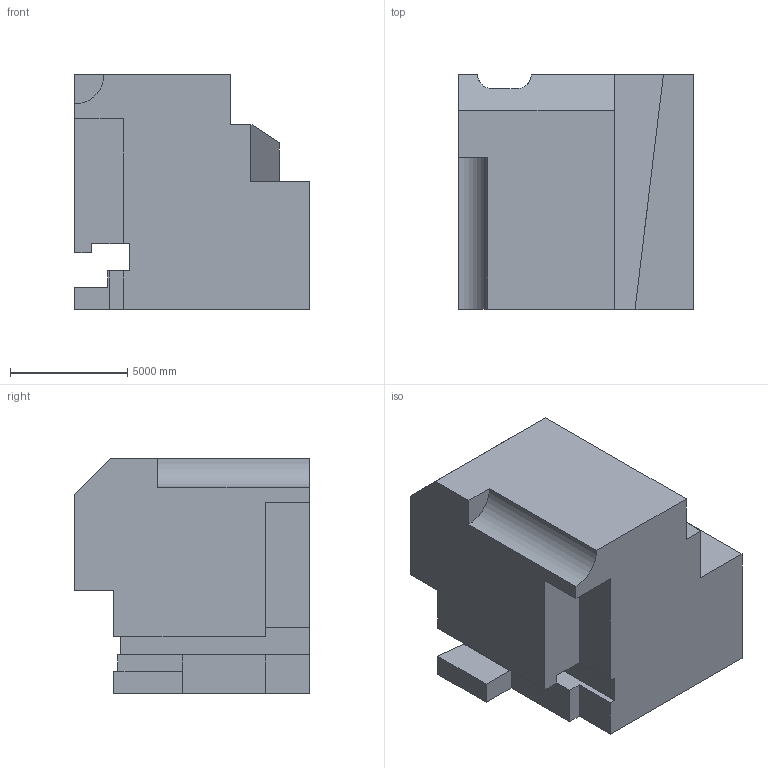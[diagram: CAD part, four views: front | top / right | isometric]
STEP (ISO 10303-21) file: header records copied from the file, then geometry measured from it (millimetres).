
FILE_DESCRIPTION (( 'STEP AP203' ), '1' );
FILE_NAME ('912.STEP', '2022-07-29T14:14:38', ( 'user' ), ( '' ), 'SwSTEP 2.0', 'SolidWorks 2021', '' );
FILE_SCHEMA (( 'CONFIG_CONTROL_DESIGN' ));
Length unit declared in the file: centimetre
Products named in the file (1): 912
Bounding box: 10000 x 10000 x 10000 mm (x, y, z)
Volume: 697648642565.1 mm3; surface area: 562835495.1 mm2
Topology: 1 solids, 1 shells, 34 faces, 96 edges, 64 vertices
Faces by surface type: plane 31, cylinder 3
Entity records: 1161 total; most frequent: CARTESIAN_POINT 201, ORIENTED_EDGE 192, DIRECTION 168, EDGE_CURVE 96, LINE 90, VECTOR 90, VERTEX_POINT 64, AXIS2_PLACEMENT_3D 39
